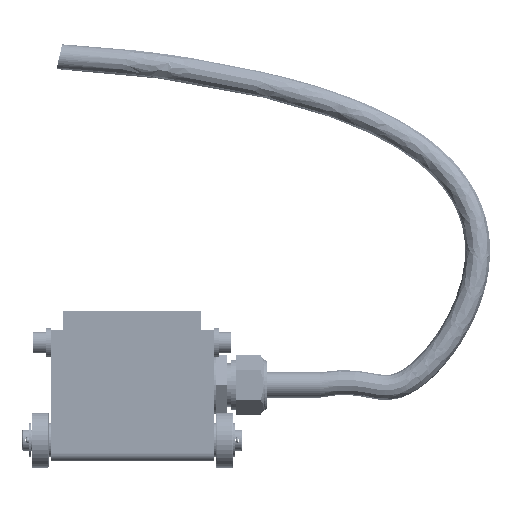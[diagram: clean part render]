
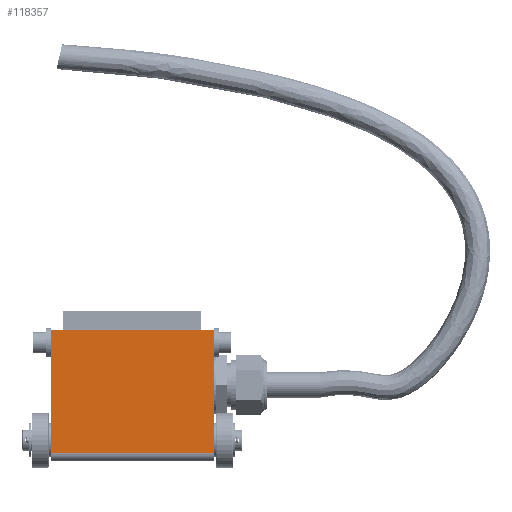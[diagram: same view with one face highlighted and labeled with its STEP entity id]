
A CAD part, front view. The second image highlights one B-rep face of the part: STEP entity #118357.
In plain terms, the highlighted planar face has unit normal (0, -1, 0).
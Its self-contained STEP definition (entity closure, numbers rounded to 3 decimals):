
#4151=PLANE('',#124737);
#9305=FACE_OUTER_BOUND('',#15362,.T.);
#15362=EDGE_LOOP('',(#83656,#83657,#83658,#83659));
#23440=LINE('',#163339,#38510);
#23441=LINE('',#163342,#38511);
#23442=LINE('',#163344,#38512);
#23443=LINE('',#163345,#38513);
#38510=VECTOR('',#132695,10.);
#38511=VECTOR('',#132698,10.);
#38512=VECTOR('',#132699,10.);
#38513=VECTOR('',#132700,10.);
#55105=VERTEX_POINT('',#163333);
#55107=VERTEX_POINT('',#163337);
#55108=VERTEX_POINT('',#163341);
#55109=VERTEX_POINT('',#163343);
#66494=EDGE_CURVE('',#55105,#55107,#23440,.T.);
#66495=EDGE_CURVE('',#55105,#55108,#23441,.T.);
#66496=EDGE_CURVE('',#55109,#55107,#23442,.T.);
#66497=EDGE_CURVE('',#55108,#55109,#23443,.T.);
#83656=ORIENTED_EDGE('',*,*,#66495,.F.);
#83657=ORIENTED_EDGE('',*,*,#66494,.T.);
#83658=ORIENTED_EDGE('',*,*,#66496,.F.);
#83659=ORIENTED_EDGE('',*,*,#66497,.F.);
#118357=ADVANCED_FACE('',(#9305),#4151,.T.);
#124737=AXIS2_PLACEMENT_3D('',#163340,#132696,#132697);
#132695=DIRECTION('',(-1.,0.,0.));
#132696=DIRECTION('center_axis',(0.,-1.,0.));
#132697=DIRECTION('ref_axis',(0.,0.,1.));
#132698=DIRECTION('',(0.,0.,-1.));
#132699=DIRECTION('',(0.,0.,1.));
#132700=DIRECTION('',(-1.,0.,0.));
#163333=CARTESIAN_POINT('',(38.5,-2.,60.));
#163337=CARTESIAN_POINT('',(-38.5,-2.,60.));
#163339=CARTESIAN_POINT('',(38.5,-2.,60.));
#163340=CARTESIAN_POINT('Origin',(38.5,-2.,2.));
#163341=CARTESIAN_POINT('',(38.5,-2.,2.));
#163342=CARTESIAN_POINT('',(38.5,-2.,60.));
#163343=CARTESIAN_POINT('',(-38.5,-2.,2.));
#163344=CARTESIAN_POINT('',(-38.5,-2.,60.));
#163345=CARTESIAN_POINT('',(38.5,-2.,2.));
